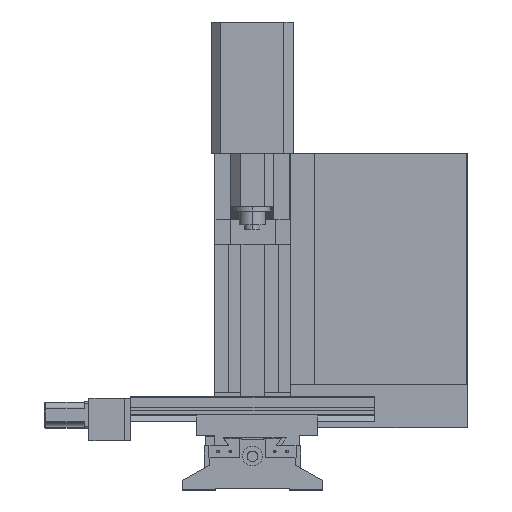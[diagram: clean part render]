
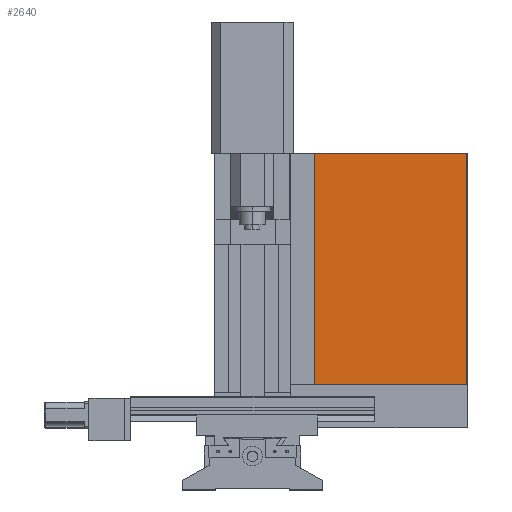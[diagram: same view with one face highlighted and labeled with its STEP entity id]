
A CAD part, top view. The second image highlights one B-rep face of the part: STEP entity #2640.
In plain terms, the highlighted planar face has unit normal (0, 0, 1).
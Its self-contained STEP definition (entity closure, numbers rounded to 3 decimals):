
#479 = EDGE_CURVE ( 'NONE', #13694, #3072, #15912, .T. ) ;
#483 = EDGE_CURVE ( 'NONE', #13694, #14851, #15941, .T. ) ;
#487 = EDGE_CURVE ( 'NONE', #3072, #3090, #15965, .T. ) ;
#872 = EDGE_CURVE ( 'NONE', #14851, #3090, #8441, .T. ) ;
#2640 = ADVANCED_FACE ( 'NONE', ( #6647 ), #18910, .F. ) ;
#2733 = EDGE_LOOP ( 'NONE', ( #10733, #10780, #10742, #10722 ) ) ;
#3072 = VERTEX_POINT ( 'NONE', #5585 ) ;
#3090 = VERTEX_POINT ( 'NONE', #5594 ) ;
#4218 = AXIS2_PLACEMENT_3D ( 'NONE', #18913, #18922, #18923 ) ;
#5585 = CARTESIAN_POINT ( 'NONE',  ( 578., 760., 20. ) ) ;
#5594 = CARTESIAN_POINT ( 'NONE',  ( 78., 760., 20. ) ) ;
#6088 = CARTESIAN_POINT ( 'NONE',  ( 578., 0., 20. ) ) ;
#6647 = FACE_OUTER_BOUND ( 'NONE', #2733, .T. ) ;
#7790 = CARTESIAN_POINT ( 'NONE',  ( 578., 380., 20. ) ) ;
#7791 = DIRECTION ( 'NONE',  ( 0., 1., 0. ) ) ;
#7807 = CARTESIAN_POINT ( 'NONE',  ( 328., 0., 20. ) ) ;
#7808 = DIRECTION ( 'NONE',  ( -1., 0., 0. ) ) ;
#7824 = CARTESIAN_POINT ( 'NONE',  ( 328., 760., 20. ) ) ;
#7825 = DIRECTION ( 'NONE',  ( -1., 0., 0. ) ) ;
#8441 = LINE ( 'NONE', #18833, #8444 ) ;
#8444 = VECTOR ( 'NONE', #18837, 1000. ) ;
#10722 = ORIENTED_EDGE ( 'NONE', *, *, #479, .T. ) ;
#10733 = ORIENTED_EDGE ( 'NONE', *, *, #487, .T. ) ;
#10742 = ORIENTED_EDGE ( 'NONE', *, *, #483, .F. ) ;
#10780 = ORIENTED_EDGE ( 'NONE', *, *, #872, .F. ) ;
#13694 = VERTEX_POINT ( 'NONE', #6088 ) ;
#14113 = CARTESIAN_POINT ( 'NONE',  ( 78., 0., 20. ) ) ;
#14851 = VERTEX_POINT ( 'NONE', #14113 ) ;
#15912 = LINE ( 'NONE', #7790, #15918 ) ;
#15918 = VECTOR ( 'NONE', #7791, 1000. ) ;
#15941 = LINE ( 'NONE', #7807, #15945 ) ;
#15945 = VECTOR ( 'NONE', #7808, 1000. ) ;
#15965 = LINE ( 'NONE', #7824, #15969 ) ;
#15969 = VECTOR ( 'NONE', #7825, 1000. ) ;
#18833 = CARTESIAN_POINT ( 'NONE',  ( 78., 380., 20. ) ) ;
#18837 = DIRECTION ( 'NONE',  ( 0., 1., 0. ) ) ;
#18910 = PLANE ( 'NONE',  #4218 ) ;
#18913 = CARTESIAN_POINT ( 'NONE',  ( 578., 0., 20. ) ) ;
#18922 = DIRECTION ( 'NONE',  ( 0., 0., -1. ) ) ;
#18923 = DIRECTION ( 'NONE',  ( -1., 0., 0. ) ) ;
